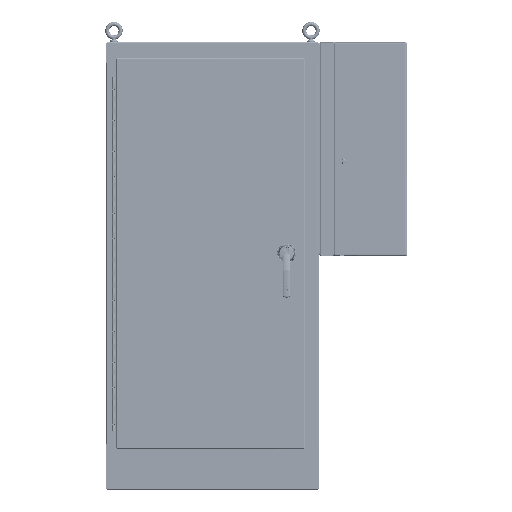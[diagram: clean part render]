
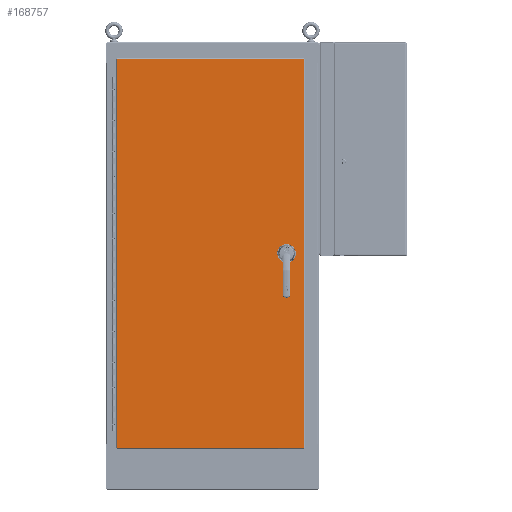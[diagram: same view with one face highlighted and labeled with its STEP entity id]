
A CAD part, top view. The second image highlights one B-rep face of the part: STEP entity #168757.
In plain terms, the highlighted planar face has unit normal (0, 0, 1) as drawn and (0, 0, -1) by its records, which use the part's own axes.
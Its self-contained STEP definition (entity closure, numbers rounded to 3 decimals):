
#139 = CARTESIAN_POINT ( 'NONE',  ( -12.988, 0., -0.095 ) ) ;
#140 = CARTESIAN_POINT ( 'NONE',  ( -13.269, 0., -0.095 ) ) ;
#143 = CARTESIAN_POINT ( 'NONE',  ( -11.176, 0., -0.095 ) ) ;
#144 = CARTESIAN_POINT ( 'NONE',  ( -11.457, 0., -0.095 ) ) ;
#147 = CARTESIAN_POINT ( 'NONE',  ( -11.941, 0., -0.095 ) ) ;
#148 = CARTESIAN_POINT ( 'NONE',  ( -12.503, 0., -0.095 ) ) ;
#149 = CARTESIAN_POINT ( 'NONE',  ( 15.017, -31.267, -0.095 ) ) ;
#150 = CARTESIAN_POINT ( 'NONE',  ( -15.017, -31.267, -0.095 ) ) ;
#151 = CARTESIAN_POINT ( 'NONE',  ( -15.017, 31.267, -0.095 ) ) ;
#152 = CARTESIAN_POINT ( 'NONE',  ( 15.017, 31.267, -0.095 ) ) ;
#75095 = EDGE_LOOP ( 'NONE', ( #295871, #295876, #295880, #295884 ) ) ;
#75101 = EDGE_LOOP ( 'NONE', ( #295864, #295868 ) ) ;
#75106 = EDGE_LOOP ( 'NONE', ( #295856, #295860 ) ) ;
#75127 = EDGE_LOOP ( 'NONE', ( #295848, #295852 ) ) ;
#125224 = AXIS2_PLACEMENT_3D ( 'NONE', #249136, #249149, #249150 ) ;
#125225 = AXIS2_PLACEMENT_3D ( 'NONE', #249152, #249154, #249156 ) ;
#125226 = AXIS2_PLACEMENT_3D ( 'NONE', #249163, #249165, #249167 ) ;
#125229 = AXIS2_PLACEMENT_3D ( 'NONE', #249203, #249219, #249221 ) ;
#125230 = AXIS2_PLACEMENT_3D ( 'NONE', #249206, #249213, #249215 ) ;
#125232 = AXIS2_PLACEMENT_3D ( 'NONE', #249211, #249224, #249225 ) ;
#132165 = AXIS2_PLACEMENT_3D ( 'NONE', #278752, #278760, #278764 ) ;
#168757 = ADVANCED_FACE ( 'NONE', ( #170810, #170824, #170828, #170832 ), #278738, .F. ) ;
#170810 = FACE_BOUND ( 'NONE', #75127, .T. ) ;
#170824 = FACE_BOUND ( 'NONE', #75106, .T. ) ;
#170828 = FACE_BOUND ( 'NONE', #75101, .T. ) ;
#170832 = FACE_OUTER_BOUND ( 'NONE', #75095, .T. ) ;
#227927 = EDGE_CURVE ( 'NONE', #242917, #242919, #241327, .T. ) ;
#227928 = EDGE_CURVE ( 'NONE', #242902, #242904, #241330, .T. ) ;
#227930 = EDGE_CURVE ( 'NONE', #242910, #242911, #241338, .T. ) ;
#227931 = EDGE_CURVE ( 'NONE', #242921, #242923, #241336, .T. ) ;
#227935 = EDGE_CURVE ( 'NONE', #242927, #242921, #241342, .T. ) ;
#227939 = EDGE_CURVE ( 'NONE', #242923, #242925, #241352, .T. ) ;
#227940 = EDGE_CURVE ( 'NONE', #242919, #242917, #241372, .T. ) ;
#227941 = EDGE_CURVE ( 'NONE', #242904, #242902, #241376, .T. ) ;
#227942 = EDGE_CURVE ( 'NONE', #242911, #242910, #241380, .T. ) ;
#227943 = EDGE_CURVE ( 'NONE', #242925, #242927, #241369, .T. ) ;
#241320 = VECTOR ( 'NONE', #249172, 39.37 ) ;
#241327 = CIRCLE ( 'NONE', #125224, 0.281 ) ;
#241330 = CIRCLE ( 'NONE', #125225, 0.14 ) ;
#241336 = LINE ( 'NONE', #249158, #241320 ) ;
#241338 = CIRCLE ( 'NONE', #125226, 0.141 ) ;
#241342 = LINE ( 'NONE', #249183, #241350 ) ;
#241350 = VECTOR ( 'NONE', #249191, 39.37 ) ;
#241352 = LINE ( 'NONE', #249201, #241365 ) ;
#241365 = VECTOR ( 'NONE', #249209, 39.37 ) ;
#241369 = LINE ( 'NONE', #249228, #241374 ) ;
#241372 = CIRCLE ( 'NONE', #125230, 0.281 ) ;
#241374 = VECTOR ( 'NONE', #249230, 39.37 ) ;
#241376 = CIRCLE ( 'NONE', #125229, 0.14 ) ;
#241380 = CIRCLE ( 'NONE', #125232, 0.141 ) ;
#242902 = VERTEX_POINT ( 'NONE', #139 ) ;
#242904 = VERTEX_POINT ( 'NONE', #140 ) ;
#242910 = VERTEX_POINT ( 'NONE', #143 ) ;
#242911 = VERTEX_POINT ( 'NONE', #144 ) ;
#242917 = VERTEX_POINT ( 'NONE', #147 ) ;
#242919 = VERTEX_POINT ( 'NONE', #148 ) ;
#242921 = VERTEX_POINT ( 'NONE', #149 ) ;
#242923 = VERTEX_POINT ( 'NONE', #150 ) ;
#242925 = VERTEX_POINT ( 'NONE', #151 ) ;
#242927 = VERTEX_POINT ( 'NONE', #152 ) ;
#249136 = CARTESIAN_POINT ( 'NONE',  ( -12.222, 0., -0.095 ) ) ;
#249149 = DIRECTION ( 'NONE',  ( 0., 0., -1. ) ) ;
#249150 = DIRECTION ( 'NONE',  ( -1., 0., 0. ) ) ;
#249152 = CARTESIAN_POINT ( 'NONE',  ( -13.128, 0., -0.095 ) ) ;
#249154 = DIRECTION ( 'NONE',  ( 0., 0., -1. ) ) ;
#249156 = DIRECTION ( 'NONE',  ( -1., 0., 0. ) ) ;
#249158 = CARTESIAN_POINT ( 'NONE',  ( 15.109, -31.267, -0.095 ) ) ;
#249163 = CARTESIAN_POINT ( 'NONE',  ( -11.316, 0., -0.095 ) ) ;
#249165 = DIRECTION ( 'NONE',  ( 0., 0., -1. ) ) ;
#249167 = DIRECTION ( 'NONE',  ( -1., 0., 0. ) ) ;
#249172 = DIRECTION ( 'NONE',  ( -1., 0., 0. ) ) ;
#249183 = CARTESIAN_POINT ( 'NONE',  ( 15.017, 31.36, -0.095 ) ) ;
#249191 = DIRECTION ( 'NONE',  ( 0., -1., 0. ) ) ;
#249201 = CARTESIAN_POINT ( 'NONE',  ( -15.017, -31.36, -0.095 ) ) ;
#249203 = CARTESIAN_POINT ( 'NONE',  ( -13.128, 0., -0.095 ) ) ;
#249206 = CARTESIAN_POINT ( 'NONE',  ( -12.222, 0., -0.095 ) ) ;
#249209 = DIRECTION ( 'NONE',  ( 0., 1., 0. ) ) ;
#249211 = CARTESIAN_POINT ( 'NONE',  ( -11.316, 0., -0.095 ) ) ;
#249213 = DIRECTION ( 'NONE',  ( 0., 0., -1. ) ) ;
#249215 = DIRECTION ( 'NONE',  ( -1., 0., 0. ) ) ;
#249219 = DIRECTION ( 'NONE',  ( 0., 0., -1. ) ) ;
#249221 = DIRECTION ( 'NONE',  ( -1., 0., 0. ) ) ;
#249224 = DIRECTION ( 'NONE',  ( 0., 0., -1. ) ) ;
#249225 = DIRECTION ( 'NONE',  ( -1., 0., 0. ) ) ;
#249228 = CARTESIAN_POINT ( 'NONE',  ( -15.109, 31.267, -0.095 ) ) ;
#249230 = DIRECTION ( 'NONE',  ( 1., 0., 0. ) ) ;
#278738 = PLANE ( 'NONE',  #132165 ) ;
#278752 = CARTESIAN_POINT ( 'NONE',  ( -15.222, -31.472, -0.095 ) ) ;
#278760 = DIRECTION ( 'NONE',  ( 0., 0., 1. ) ) ;
#278764 = DIRECTION ( 'NONE',  ( 1., 0., 0. ) ) ;
#295848 = ORIENTED_EDGE ( 'NONE', *, *, #227941, .F. ) ;
#295852 = ORIENTED_EDGE ( 'NONE', *, *, #227928, .F. ) ;
#295856 = ORIENTED_EDGE ( 'NONE', *, *, #227942, .F. ) ;
#295860 = ORIENTED_EDGE ( 'NONE', *, *, #227930, .F. ) ;
#295864 = ORIENTED_EDGE ( 'NONE', *, *, #227940, .F. ) ;
#295868 = ORIENTED_EDGE ( 'NONE', *, *, #227927, .F. ) ;
#295871 = ORIENTED_EDGE ( 'NONE', *, *, #227931, .T. ) ;
#295876 = ORIENTED_EDGE ( 'NONE', *, *, #227939, .T. ) ;
#295880 = ORIENTED_EDGE ( 'NONE', *, *, #227943, .T. ) ;
#295884 = ORIENTED_EDGE ( 'NONE', *, *, #227935, .T. ) ;
